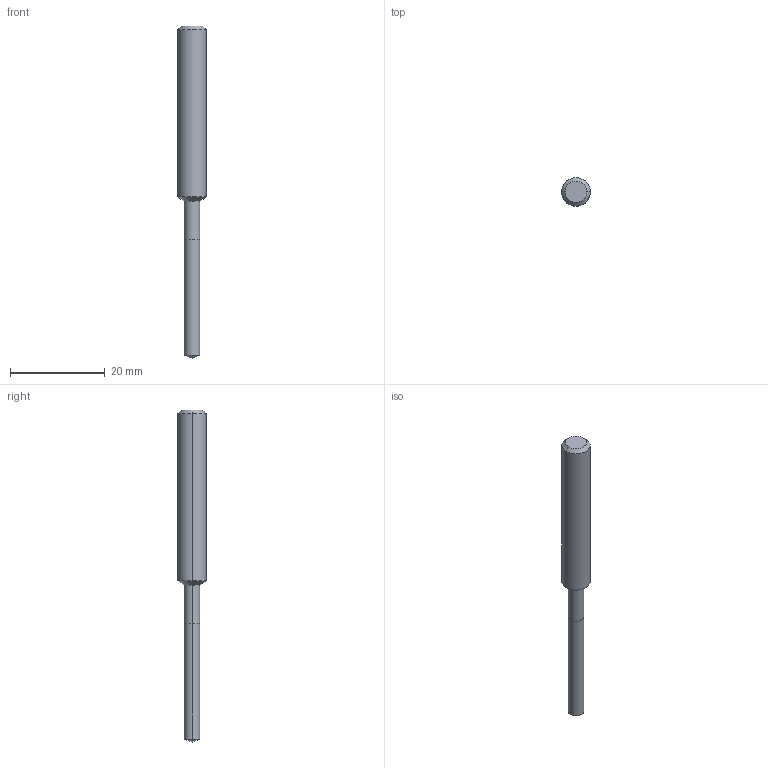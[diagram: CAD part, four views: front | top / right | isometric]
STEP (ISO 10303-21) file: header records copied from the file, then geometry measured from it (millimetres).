
FILE_DESCRIPTION(('STEP AP214'),'1');
FILE_NAME('cctmp_7FA35737-733A-471A-B78F-A499D8C2B2AC_2020_11_02_13_40_06_0000..stp','2020-11-02T12:40:06',('Meusburger Georg GmbH & Co KG'),('CADClick - www.CADClick.com'),'Spatial InterOp 3D',' ','unknown authorization');
FILE_SCHEMA(('AUTOMOTIVE_DESIGN { 1 0 10303 214 1 1 1 1 }'));
Length unit declared in the file: millimetre
Products named in the file (1): WZB10223_3.3
Bounding box: 6 x 6 x 70 mm (x, y, z)
Volume: 1308 mm3; surface area: 1067.1 mm2
Topology: 1 solids, 1 shells, 14 faces, 28 edges, 15 vertices
Faces by surface type: cylinder 6, cone 6, plane 2
Entity records: 484 total; most frequent: DIRECTION 70, CARTESIAN_POINT 56, ORIENTED_EDGE 52, AXIS2_PLACEMENT_3D 29, EDGE_CURVE 26, STYLED_ITEM 15, PRESENTATION_STYLE_ASSIGNMENT 15, SURFACE_STYLE_USAGE 15
